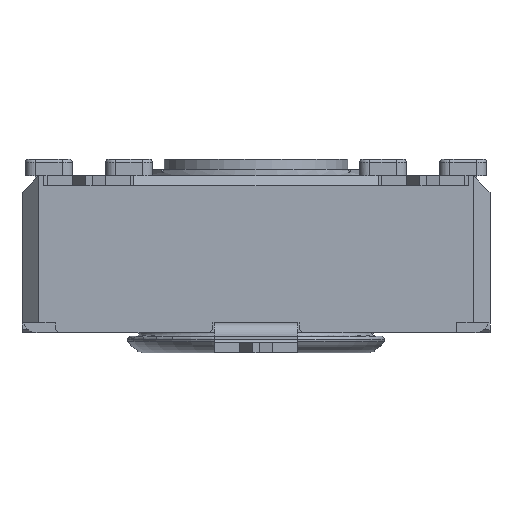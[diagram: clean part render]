
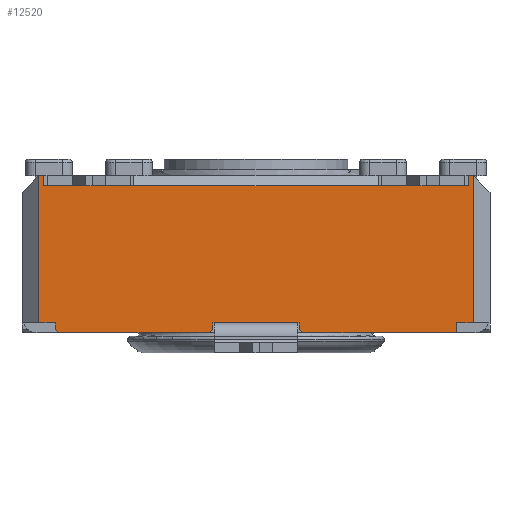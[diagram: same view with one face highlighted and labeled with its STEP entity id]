
A CAD part, front view. The second image highlights one B-rep face of the part: STEP entity #12520.
In plain terms, the highlighted planar face has unit normal (0, -1, 0).
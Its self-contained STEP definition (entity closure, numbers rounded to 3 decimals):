
#652=FACE_OUTER_BOUND('',#1319,.T.);
#1319=EDGE_LOOP('',(#8323,#8324,#8325,#8326,#8327,#8328,#8329,#8330,#8331,
#8332,#8333,#8334,#8335,#8336,#8337,#8338,#8339,#8340,#8341,#8342,#8343,
#8344,#8345,#8346,#8347,#8348,#8349));
#1990=LINE('',#17784,#3471);
#2003=LINE('',#17818,#3484);
#2008=LINE('',#17828,#3489);
#2086=LINE('',#17989,#3567);
#2111=LINE('',#18040,#3592);
#2145=LINE('',#18128,#3626);
#2146=LINE('',#18130,#3627);
#2147=LINE('',#18132,#3628);
#2148=LINE('',#18133,#3629);
#2149=LINE('',#18135,#3630);
#2150=LINE('',#18137,#3631);
#2151=LINE('',#18139,#3632);
#2152=LINE('',#18141,#3633);
#2153=LINE('',#18142,#3634);
#2154=LINE('',#18144,#3635);
#2155=LINE('',#18146,#3636);
#2156=LINE('',#18148,#3637);
#2157=LINE('',#18150,#3638);
#2158=LINE('',#18152,#3639);
#2159=LINE('',#18154,#3640);
#2160=LINE('',#18156,#3641);
#2161=LINE('',#18158,#3642);
#2162=LINE('',#18160,#3643);
#2163=LINE('',#18161,#3644);
#2164=LINE('',#18163,#3645);
#2165=LINE('',#18165,#3646);
#2166=LINE('',#18166,#3647);
#3471=VECTOR('',#14261,10.);
#3484=VECTOR('',#14300,10.);
#3489=VECTOR('',#14305,10.);
#3567=VECTOR('',#14409,10.);
#3592=VECTOR('',#14450,10.);
#3626=VECTOR('',#14522,10.);
#3627=VECTOR('',#14523,10.);
#3628=VECTOR('',#14524,10.);
#3629=VECTOR('',#14525,10.);
#3630=VECTOR('',#14526,10.);
#3631=VECTOR('',#14527,10.);
#3632=VECTOR('',#14528,10.);
#3633=VECTOR('',#14529,10.);
#3634=VECTOR('',#14530,10.);
#3635=VECTOR('',#14531,10.);
#3636=VECTOR('',#14532,10.);
#3637=VECTOR('',#14533,10.);
#3638=VECTOR('',#14534,10.);
#3639=VECTOR('',#14535,10.);
#3640=VECTOR('',#14536,10.);
#3641=VECTOR('',#14537,10.);
#3642=VECTOR('',#14538,10.);
#3643=VECTOR('',#14539,10.);
#3644=VECTOR('',#14540,10.);
#3645=VECTOR('',#14541,10.);
#3646=VECTOR('',#14542,10.);
#3647=VECTOR('',#14543,10.);
#4943=VERTEX_POINT('',#17762);
#4951=VERTEX_POINT('',#17783);
#4959=VERTEX_POINT('',#17817);
#4963=VERTEX_POINT('',#17825);
#4964=VERTEX_POINT('',#17827);
#5033=VERTEX_POINT('',#17986);
#5034=VERTEX_POINT('',#17988);
#5051=VERTEX_POINT('',#18037);
#5052=VERTEX_POINT('',#18039);
#5087=VERTEX_POINT('',#18127);
#5088=VERTEX_POINT('',#18129);
#5089=VERTEX_POINT('',#18131);
#5090=VERTEX_POINT('',#18134);
#5091=VERTEX_POINT('',#18136);
#5092=VERTEX_POINT('',#18138);
#5093=VERTEX_POINT('',#18140);
#5094=VERTEX_POINT('',#18143);
#5095=VERTEX_POINT('',#18145);
#5096=VERTEX_POINT('',#18147);
#5097=VERTEX_POINT('',#18149);
#5098=VERTEX_POINT('',#18151);
#5099=VERTEX_POINT('',#18153);
#5100=VERTEX_POINT('',#18155);
#5101=VERTEX_POINT('',#18157);
#5102=VERTEX_POINT('',#18159);
#5103=VERTEX_POINT('',#18162);
#5104=VERTEX_POINT('',#18164);
#6174=EDGE_CURVE('',#4943,#4951,#1990,.T.);
#6191=EDGE_CURVE('',#4959,#4943,#2003,.T.);
#6196=EDGE_CURVE('',#4964,#4963,#2008,.T.);
#6276=EDGE_CURVE('',#5034,#5033,#2086,.T.);
#6301=EDGE_CURVE('',#5052,#5051,#2111,.T.);
#6345=EDGE_CURVE('',#5033,#5087,#2145,.T.);
#6346=EDGE_CURVE('',#5087,#5088,#2146,.T.);
#6347=EDGE_CURVE('',#5088,#5089,#2147,.T.);
#6348=EDGE_CURVE('',#4964,#5089,#2148,.T.);
#6349=EDGE_CURVE('',#4963,#5090,#2149,.T.);
#6350=EDGE_CURVE('',#5091,#5090,#2150,.T.);
#6351=EDGE_CURVE('',#5091,#5092,#2151,.T.);
#6352=EDGE_CURVE('',#5093,#5092,#2152,.T.);
#6353=EDGE_CURVE('',#4959,#5093,#2153,.T.);
#6354=EDGE_CURVE('',#4951,#5094,#2154,.T.);
#6355=EDGE_CURVE('',#5094,#5095,#2155,.T.);
#6356=EDGE_CURVE('',#5096,#5095,#2156,.T.);
#6357=EDGE_CURVE('',#5096,#5097,#2157,.T.);
#6358=EDGE_CURVE('',#5097,#5098,#2158,.T.);
#6359=EDGE_CURVE('',#5098,#5099,#2159,.T.);
#6360=EDGE_CURVE('',#5100,#5099,#2160,.T.);
#6361=EDGE_CURVE('',#5100,#5101,#2161,.T.);
#6362=EDGE_CURVE('',#5101,#5102,#2162,.T.);
#6363=EDGE_CURVE('',#5102,#5052,#2163,.T.);
#6364=EDGE_CURVE('',#5051,#5103,#2164,.T.);
#6365=EDGE_CURVE('',#5104,#5103,#2165,.T.);
#6366=EDGE_CURVE('',#5104,#5034,#2166,.T.);
#8323=ORIENTED_EDGE('',*,*,#6276,.T.);
#8324=ORIENTED_EDGE('',*,*,#6345,.T.);
#8325=ORIENTED_EDGE('',*,*,#6346,.T.);
#8326=ORIENTED_EDGE('',*,*,#6347,.T.);
#8327=ORIENTED_EDGE('',*,*,#6348,.F.);
#8328=ORIENTED_EDGE('',*,*,#6196,.T.);
#8329=ORIENTED_EDGE('',*,*,#6349,.T.);
#8330=ORIENTED_EDGE('',*,*,#6350,.F.);
#8331=ORIENTED_EDGE('',*,*,#6351,.T.);
#8332=ORIENTED_EDGE('',*,*,#6352,.F.);
#8333=ORIENTED_EDGE('',*,*,#6353,.F.);
#8334=ORIENTED_EDGE('',*,*,#6191,.T.);
#8335=ORIENTED_EDGE('',*,*,#6174,.T.);
#8336=ORIENTED_EDGE('',*,*,#6354,.T.);
#8337=ORIENTED_EDGE('',*,*,#6355,.T.);
#8338=ORIENTED_EDGE('',*,*,#6356,.F.);
#8339=ORIENTED_EDGE('',*,*,#6357,.T.);
#8340=ORIENTED_EDGE('',*,*,#6358,.T.);
#8341=ORIENTED_EDGE('',*,*,#6359,.T.);
#8342=ORIENTED_EDGE('',*,*,#6360,.F.);
#8343=ORIENTED_EDGE('',*,*,#6361,.T.);
#8344=ORIENTED_EDGE('',*,*,#6362,.T.);
#8345=ORIENTED_EDGE('',*,*,#6363,.T.);
#8346=ORIENTED_EDGE('',*,*,#6301,.T.);
#8347=ORIENTED_EDGE('',*,*,#6364,.T.);
#8348=ORIENTED_EDGE('',*,*,#6365,.F.);
#8349=ORIENTED_EDGE('',*,*,#6366,.T.);
#11809=PLANE('',#13233);
#12520=ADVANCED_FACE('',(#652),#11809,.T.);
#13233=AXIS2_PLACEMENT_3D('',#18126,#14520,#14521);
#14261=DIRECTION('',(1.,0.,0.));
#14300=DIRECTION('',(1.,0.,0.));
#14305=DIRECTION('',(1.,0.,0.));
#14409=DIRECTION('',(-1.,0.,0.));
#14450=DIRECTION('',(-1.,0.,0.));
#14520=DIRECTION('center_axis',(0.,-1.,0.));
#14521=DIRECTION('ref_axis',(0.,0.,-1.));
#14522=DIRECTION('',(-1.,0.,0.));
#14523=DIRECTION('',(0.,0.,1.));
#14524=DIRECTION('',(-1.,0.,0.));
#14525=DIRECTION('',(0.,0.,1.));
#14526=DIRECTION('',(0.,0.,-1.));
#14527=DIRECTION('',(-0.707,0.,0.707));
#14528=DIRECTION('',(1.,0.,0.));
#14529=DIRECTION('',(-0.707,0.,-0.707));
#14530=DIRECTION('',(0.,0.,-1.));
#14531=DIRECTION('',(1.,0.,0.));
#14532=DIRECTION('',(0.,0.,-1.));
#14533=DIRECTION('',(-0.707,0.,0.707));
#14534=DIRECTION('',(1.,0.,0.));
#14535=DIRECTION('',(0.,0.,1.));
#14536=DIRECTION('',(1.,0.,0.));
#14537=DIRECTION('',(0.,0.,-1.));
#14538=DIRECTION('',(-1.,0.,0.));
#14539=DIRECTION('',(0.,0.,-1.));
#14540=DIRECTION('',(-1.,0.,0.));
#14541=DIRECTION('',(-1.,0.,0.));
#14542=DIRECTION('',(1.,0.,0.));
#14543=DIRECTION('',(-1.,0.,0.));
#17762=CARTESIAN_POINT('',(-8.717,-9.898,0.));
#17783=CARTESIAN_POINT('',(-6.217,-9.898,0.));
#17784=CARTESIAN_POINT('',(-14.467,-9.898,0.));
#17817=CARTESIAN_POINT('',(-8.767,-9.898,0.));
#17818=CARTESIAN_POINT('',(-14.467,-9.898,0.));
#17825=CARTESIAN_POINT('',(-13.467,-9.898,0.));
#17827=CARTESIAN_POINT('',(-13.967,-9.898,0.));
#17828=CARTESIAN_POINT('',(-7.245,-9.898,0.));
#17986=CARTESIAN_POINT('',(-13.717,-9.898,4.1));
#17988=CARTESIAN_POINT('',(-11.217,-9.898,4.1));
#17989=CARTESIAN_POINT('',(-6.467,-9.898,4.1));
#18037=CARTESIAN_POINT('',(-3.717,-9.898,4.1));
#18039=CARTESIAN_POINT('',(-1.217,-9.898,4.1));
#18040=CARTESIAN_POINT('',(-1.467,-9.898,4.1));
#18126=CARTESIAN_POINT('Origin',(-0.467,-9.898,0.));
#18127=CARTESIAN_POINT('',(-13.817,-9.898,4.1));
#18128=CARTESIAN_POINT('',(-3.944,-9.898,4.1));
#18129=CARTESIAN_POINT('',(-13.817,-9.898,4.4));
#18130=CARTESIAN_POINT('',(-13.817,-9.898,2.2));
#18131=CARTESIAN_POINT('',(-13.967,-9.898,4.4));
#18132=CARTESIAN_POINT('',(-14.467,-9.898,4.4));
#18133=CARTESIAN_POINT('',(-13.967,-9.898,0.));
#18134=CARTESIAN_POINT('',(-13.467,-9.898,-0.2));
#18135=CARTESIAN_POINT('',(-13.467,-9.898,-0.15));
#18136=CARTESIAN_POINT('',(-13.367,-9.898,-0.3));
#18137=CARTESIAN_POINT('',(-10.242,-9.898,-3.425));
#18138=CARTESIAN_POINT('',(-8.867,-9.898,-0.3));
#18139=CARTESIAN_POINT('',(-0.467,-9.898,-0.3));
#18140=CARTESIAN_POINT('',(-8.767,-9.898,-0.2));
#18141=CARTESIAN_POINT('',(-6.667,-9.898,1.9));
#18142=CARTESIAN_POINT('',(-8.767,-9.898,0.));
#18143=CARTESIAN_POINT('',(-6.167,-9.898,0.));
#18144=CARTESIAN_POINT('',(-14.467,-9.898,0.));
#18145=CARTESIAN_POINT('',(-6.167,-9.898,-0.2));
#18146=CARTESIAN_POINT('',(-6.167,-9.898,0.));
#18147=CARTESIAN_POINT('',(-6.067,-9.898,-0.3));
#18148=CARTESIAN_POINT('',(-4.767,-9.898,-1.6));
#18149=CARTESIAN_POINT('',(-1.467,-9.898,-0.3));
#18150=CARTESIAN_POINT('',(-0.467,-9.898,-0.3));
#18151=CARTESIAN_POINT('',(-1.467,-9.898,0.));
#18152=CARTESIAN_POINT('',(-1.467,-9.898,-0.15));
#18153=CARTESIAN_POINT('',(-0.967,-9.898,0.));
#18154=CARTESIAN_POINT('',(-0.646,-9.898,0.));
#18155=CARTESIAN_POINT('',(-0.967,-9.898,4.4));
#18156=CARTESIAN_POINT('',(-0.967,-9.898,0.));
#18157=CARTESIAN_POINT('',(-1.117,-9.898,4.4));
#18158=CARTESIAN_POINT('',(-14.467,-9.898,4.4));
#18159=CARTESIAN_POINT('',(-1.117,-9.898,4.1));
#18160=CARTESIAN_POINT('',(-1.117,-9.898,2.2));
#18161=CARTESIAN_POINT('',(-1.862,-9.898,4.1));
#18162=CARTESIAN_POINT('',(-3.817,-9.898,4.1));
#18163=CARTESIAN_POINT('',(-1.862,-9.898,4.1));
#18164=CARTESIAN_POINT('',(-11.117,-9.898,4.1));
#18165=CARTESIAN_POINT('',(-3.967,-9.898,4.1));
#18166=CARTESIAN_POINT('',(-3.944,-9.898,4.1));
